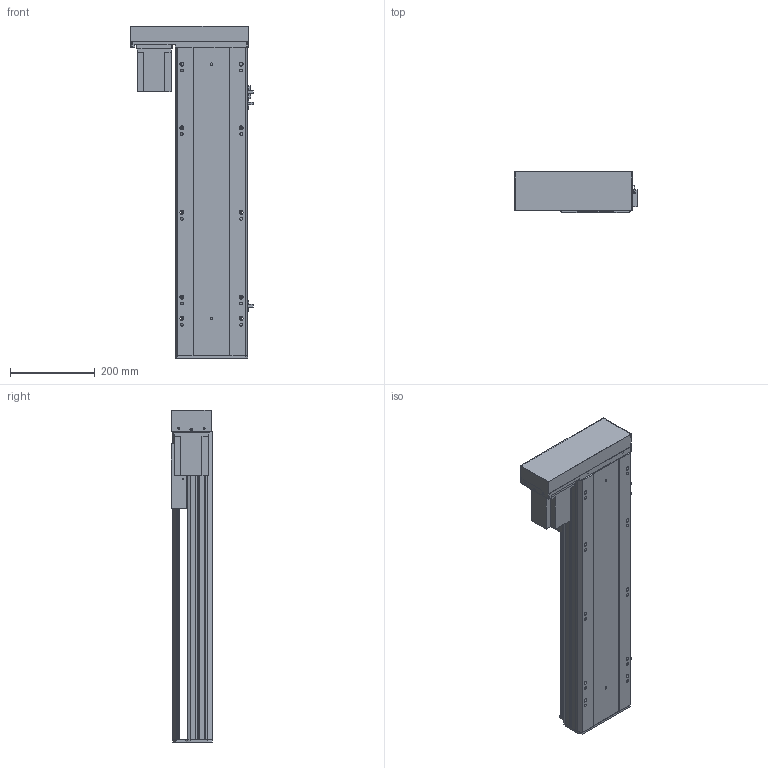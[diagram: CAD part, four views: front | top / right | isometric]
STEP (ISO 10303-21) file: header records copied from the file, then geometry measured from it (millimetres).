
FILE_DESCRIPTION (( 'STEP AP203' ), '1' );
FILE_NAME ('Y170-D10-S500-BL-P750W.STEP', '2020-01-19T22:53:12', ( '微软用户' ), ( '微软中国' ), 'SwSTEP 2.0', 'SolidWorks 2017', '' );
FILE_SCHEMA (( 'CONFIG_CONTROL_DESIGN' ));
Length unit declared in the file: millimetre
Products named in the file (12): Y170-陔遴奻裔-BR; YD-Y100-135-新外置传感挡片(通用）; Y--BL蟀諉啣-陔遴-; Y100-135俋离換覜ん; Y170-D10-S500-BL-P750W; 170--掛极-BR; Y170-BL-P750W楊擘啣; 侂狟750W; EGH20賑輸_蕼偞; Y雄赽釱-耜蚾; Y-BL.BR-俋欶; Y170耜裔--準---
Assembly tree (14 placements, depth 2):
  Y170-D10-S500-BL-P750W
    Y170耜裔--準---
    YD-Y100-135-新外置传感挡片(通用）
    Y100-135俋离換覜ん  x3
    170--掛极-BR
    Y170-BL-P750W楊擘啣
    侂狟750W
    EGH20賑輸_蕼偞  x2
    Y雄赽釱-耜蚾
    Y-BL.BR-俋欶
    Y170-陔遴奻裔-BR
    Y--BL蟀諉啣-陔遴-
Bounding box: 289 x 97 x 783.5 mm (x, y, z)
Volume: 4220893.3 mm3; surface area: 1410503 mm2
Topology: 14 solids, 14 shells, 909 faces, 2546 edges, 1680 vertices
Faces by surface type: cylinder 450, plane 443, cone 16
Entity records: 28570 total; most frequent: CARTESIAN_POINT 4998, DIRECTION 4748, ORIENTED_EDGE 4588, EDGE_CURVE 2294, AXIS2_PLACEMENT_3D 1682, VERTEX_POINT 1524, LINE 1384, VECTOR 1384
